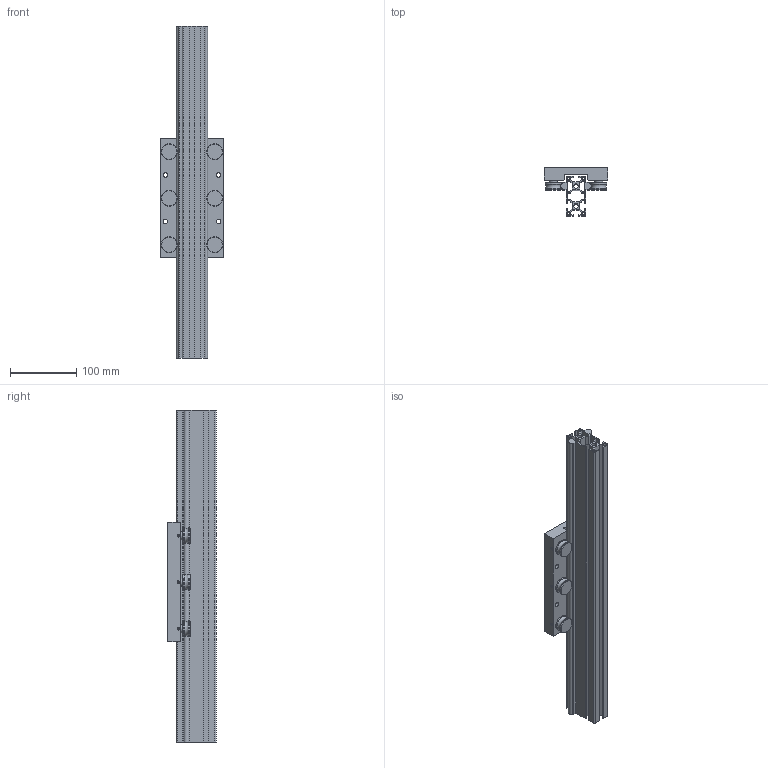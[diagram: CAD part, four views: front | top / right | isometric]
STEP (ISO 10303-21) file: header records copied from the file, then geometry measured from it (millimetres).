
FILE_DESCRIPTION (( 'STEP AP214' ), '1' );
FILE_NAME ('LSAP3060L.STEP', '2021-12-15T07:00:00', ( '' ), ( '' ), 'SwSTEP 2.0', 'SolidWorks 2019', '' );
FILE_SCHEMA (( 'AUTOMOTIVE_DESIGN' ));
Length unit declared in the file: millimetre
Products named in the file (3): LSAP3060Lレール; LSAP3060L; LSAP3060L僉儍儕僢僕
Assembly tree (2 placements, depth 2):
  LSAP3060L
    LSAP3060Lレール
    LSAP3060L僉儍儕僢僕
Bounding box: 96 x 73 x 500 mm (x, y, z)
Volume: 670764 mm3; surface area: 360788.5 mm2
Topology: 14 solids, 14 shells, 385 faces, 876 edges, 552 vertices
Faces by surface type: plane 206, cylinder 83, cone 78, torus 18
Full cylindrical faces by diameter (mm): 3 x3, 4 x3, 4.2 x4, 6.8 x9, 8 x12, 8.4 x6, 12.3 x6, 13.5 x6, 19 x6, 24 x12
Entity records: 14134 total; most frequent: CARTESIAN_POINT 2483, DIRECTION 1671, ORIENTED_EDGE 1558, EDGE_CURVE 779, AXIS2_PLACEMENT_3D 646, EDGE_LOOP 565, VERTEX_POINT 546, FACE_OUTER_BOUND 470
